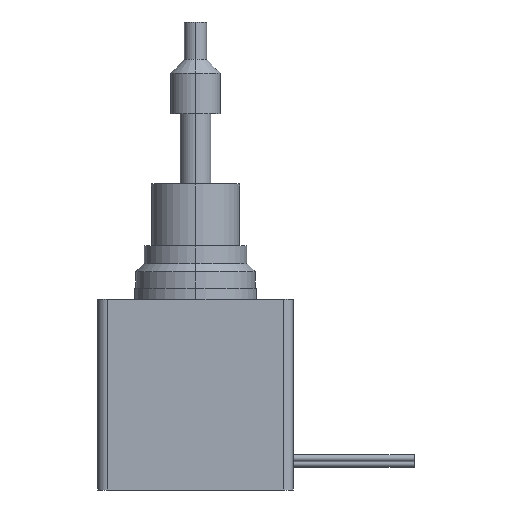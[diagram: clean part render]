
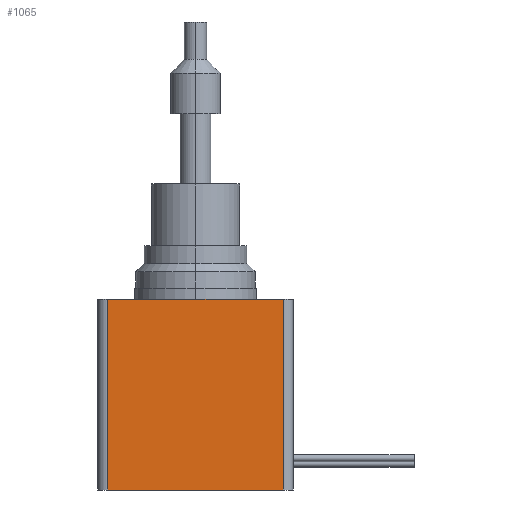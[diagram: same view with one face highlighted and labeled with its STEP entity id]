
A CAD part, left-side view. The second image highlights one B-rep face of the part: STEP entity #1065.
In plain terms, the highlighted planar face has unit normal (-1, 0, 0).
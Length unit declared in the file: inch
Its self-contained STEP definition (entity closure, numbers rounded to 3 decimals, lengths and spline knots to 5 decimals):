
#73 = VERTEX_POINT ( 'NONE', #740 ) ;
#95 = CARTESIAN_POINT ( 'NONE',  ( -0.69291, -0.62205, -1.35276 ) ) ;
#172 = AXIS2_PLACEMENT_3D ( 'NONE', #2069, #564, #2022 ) ;
#215 = LINE ( 'NONE', #1690, #2471 ) ;
#288 = CARTESIAN_POINT ( 'NONE',  ( -0.69291, 0.62205, -1.35276 ) ) ;
#384 = VECTOR ( 'NONE', #2985, 39.37008 ) ;
#386 = FACE_OUTER_BOUND ( 'NONE', #1923, .T. ) ;
#469 = VERTEX_POINT ( 'NONE', #2016 ) ;
#545 = DIRECTION ( 'NONE',  ( 0., 0., -1. ) ) ;
#564 = DIRECTION ( 'NONE',  ( -1., 0., 0. ) ) ;
#740 = CARTESIAN_POINT ( 'NONE',  ( -0.69291, -0.62205, 0. ) ) ;
#787 = VERTEX_POINT ( 'NONE', #1855 ) ;
#934 = DIRECTION ( 'NONE',  ( 0., -1., 0. ) ) ;
#1065 = ADVANCED_FACE ( 'NONE', ( #386 ), #2837, .T. ) ;
#1077 = ORIENTED_EDGE ( 'NONE', *, *, #2071, .T. ) ;
#1078 = DIRECTION ( 'NONE',  ( 0., -1., 0. ) ) ;
#1096 = EDGE_CURVE ( 'NONE', #787, #469, #2257, .T. ) ;
#1269 = VECTOR ( 'NONE', #545, 39.37008 ) ;
#1382 = VECTOR ( 'NONE', #1078, 39.37008 ) ;
#1482 = LINE ( 'NONE', #1536, #384 ) ;
#1536 = CARTESIAN_POINT ( 'NONE',  ( -0.69291, -0.62205, -1.35276 ) ) ;
#1581 = EDGE_CURVE ( 'NONE', #787, #73, #215, .T. ) ;
#1690 = CARTESIAN_POINT ( 'NONE',  ( -0.69291, 0.69291, 0. ) ) ;
#1855 = CARTESIAN_POINT ( 'NONE',  ( -0.69291, 0.62205, 0. ) ) ;
#1923 = EDGE_LOOP ( 'NONE', ( #2633, #1077, #2452, #2653 ) ) ;
#2016 = CARTESIAN_POINT ( 'NONE',  ( -0.69291, 0.62205, -1.35276 ) ) ;
#2022 = DIRECTION ( 'NONE',  ( 0., -1., 0. ) ) ;
#2034 = CARTESIAN_POINT ( 'NONE',  ( -0.69291, 0.69291, -1.35276 ) ) ;
#2069 = CARTESIAN_POINT ( 'NONE',  ( -0.69291, 0.69291, -1.35276 ) ) ;
#2071 = EDGE_CURVE ( 'NONE', #2567, #73, #1482, .T. ) ;
#2173 = EDGE_CURVE ( 'NONE', #469, #2567, #2340, .T. ) ;
#2257 = LINE ( 'NONE', #288, #1269 ) ;
#2340 = LINE ( 'NONE', #2034, #1382 ) ;
#2452 = ORIENTED_EDGE ( 'NONE', *, *, #1581, .F. ) ;
#2471 = VECTOR ( 'NONE', #934, 39.37008 ) ;
#2567 = VERTEX_POINT ( 'NONE', #95 ) ;
#2633 = ORIENTED_EDGE ( 'NONE', *, *, #2173, .T. ) ;
#2653 = ORIENTED_EDGE ( 'NONE', *, *, #1096, .T. ) ;
#2837 = PLANE ( 'NONE',  #172 ) ;
#2985 = DIRECTION ( 'NONE',  ( 0., 0., 1. ) ) ;
